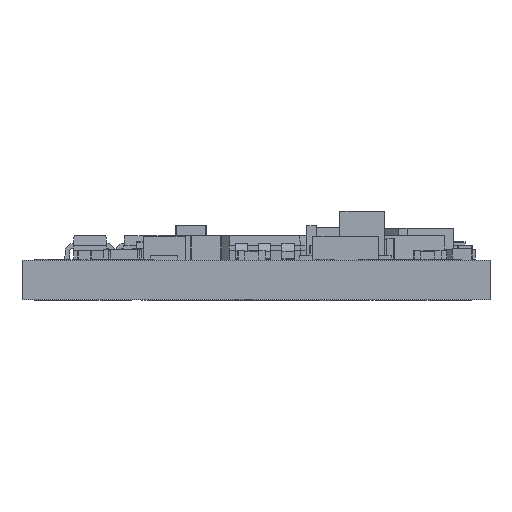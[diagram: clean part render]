
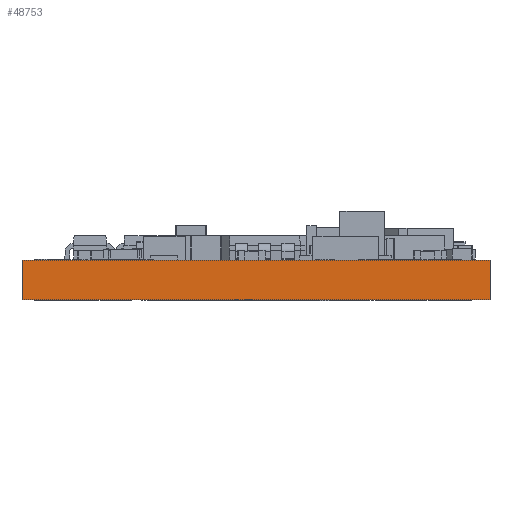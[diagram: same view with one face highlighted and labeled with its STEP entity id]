
A CAD part, front view. The second image highlights one B-rep face of the part: STEP entity #48753.
In plain terms, the highlighted planar face has unit normal (0, -1, 0).
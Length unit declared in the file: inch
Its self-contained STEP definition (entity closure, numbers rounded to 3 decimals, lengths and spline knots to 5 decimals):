
#1787 = VECTOR ( 'NONE', #119518, 39.37008 ) ;
#4000 = DIRECTION ( 'NONE',  ( 0., 1., 0. ) ) ;
#14259 = CARTESIAN_POINT ( 'NONE',  ( 0.375, -1., 0. ) ) ;
#16096 = LINE ( 'NONE', #81897, #66254 ) ;
#16522 = CARTESIAN_POINT ( 'NONE',  ( -0.375, -1., 0.06299 ) ) ;
#25423 = DIRECTION ( 'NONE',  ( 0., 0., -1. ) ) ;
#27657 = VERTEX_POINT ( 'NONE', #105015 ) ;
#30806 = EDGE_LOOP ( 'NONE', ( #121520, #50110, #55007, #120833 ) ) ;
#30832 = VERTEX_POINT ( 'NONE', #82342 ) ;
#36971 = AXIS2_PLACEMENT_3D ( 'NONE', #60492, #4000, #69980 ) ;
#39536 = FACE_OUTER_BOUND ( 'NONE', #30806, .T. ) ;
#40655 = EDGE_CURVE ( 'NONE', #59203, #46658, #48481, .T. ) ;
#46658 = VERTEX_POINT ( 'NONE', #14259 ) ;
#48481 = LINE ( 'NONE', #104984, #70660 ) ;
#48753 = ADVANCED_FACE ( 'NONE', ( #39536 ), #88157, .F. ) ;
#48959 = LINE ( 'NONE', #110117, #1787 ) ;
#50110 = ORIENTED_EDGE ( 'NONE', *, *, #84905, .F. ) ;
#55007 = ORIENTED_EDGE ( 'NONE', *, *, #117553, .F. ) ;
#59203 = VERTEX_POINT ( 'NONE', #97244 ) ;
#60492 = CARTESIAN_POINT ( 'NONE',  ( -0.375, -1., 0.06299 ) ) ;
#66254 = VECTOR ( 'NONE', #25423, 39.37008 ) ;
#69980 = DIRECTION ( 'NONE',  ( 0., 0., 1. ) ) ;
#70660 = VECTOR ( 'NONE', #114491, 39.37008 ) ;
#78843 = EDGE_CURVE ( 'NONE', #30832, #59203, #16096, .T. ) ;
#81897 = CARTESIAN_POINT ( 'NONE',  ( -0.375, -1., 0.06299 ) ) ;
#82342 = CARTESIAN_POINT ( 'NONE',  ( -0.375, -1., 0.06299 ) ) ;
#82448 = DIRECTION ( 'NONE',  ( 1., 0., 0. ) ) ;
#84905 = EDGE_CURVE ( 'NONE', #27657, #46658, #48959, .T. ) ;
#88157 = PLANE ( 'NONE',  #36971 ) ;
#89247 = LINE ( 'NONE', #16522, #111429 ) ;
#97244 = CARTESIAN_POINT ( 'NONE',  ( -0.375, -1., 0. ) ) ;
#104984 = CARTESIAN_POINT ( 'NONE',  ( -0.375, -1., 0. ) ) ;
#105015 = CARTESIAN_POINT ( 'NONE',  ( 0.375, -1., 0.06299 ) ) ;
#110117 = CARTESIAN_POINT ( 'NONE',  ( 0.375, -1., 0.06299 ) ) ;
#111429 = VECTOR ( 'NONE', #82448, 39.37008 ) ;
#114491 = DIRECTION ( 'NONE',  ( 1., 0., 0. ) ) ;
#117553 = EDGE_CURVE ( 'NONE', #30832, #27657, #89247, .T. ) ;
#119518 = DIRECTION ( 'NONE',  ( 0., 0., -1. ) ) ;
#120833 = ORIENTED_EDGE ( 'NONE', *, *, #78843, .T. ) ;
#121520 = ORIENTED_EDGE ( 'NONE', *, *, #40655, .T. ) ;
